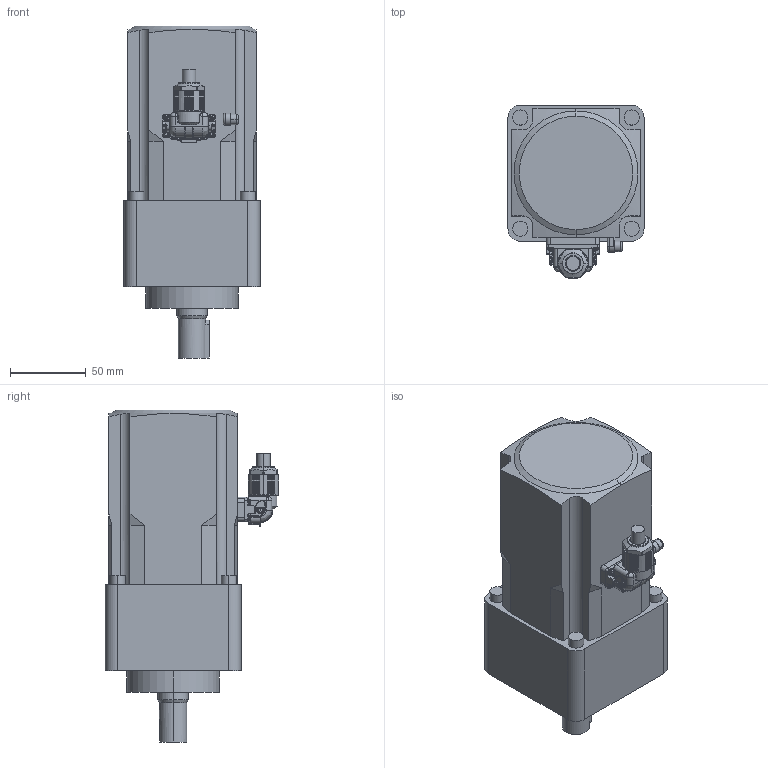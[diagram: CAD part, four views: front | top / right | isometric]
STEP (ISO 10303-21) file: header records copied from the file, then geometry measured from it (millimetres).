
FILE_DESCRIPTION (( 'STEP AP203' ), '1' );
FILE_NAME ('B1633A_B.step', '2025-07-03T05:56:31', ( '' ), ( '' ), 'SwSTEP 2.0', 'SolidWorks 2023', '' );
FILE_SCHEMA (( 'CONFIG_CONTROL_DESIGN' ));
Length unit declared in the file: millimetre
Products named in the file (1): B1633A_B
Bounding box: 90 x 115 x 219.5 mm (x, y, z)
Volume: 1260967.2 mm3; surface area: 86894.4 mm2
Topology: 2 solids, 10 shells, 1115 faces, 2883 edges, 1776 vertices
Faces by surface type: plane 469, cylinder 420, bspline 148, cone 54, torus 22, sphere 2
Entity records: 37547 total; most frequent: CARTESIAN_POINT 11870, ORIENTED_EDGE 5690, DIRECTION 4946, EDGE_CURVE 2845, VERTEX_POINT 1776, AXIS2_PLACEMENT_3D 1719, VECTOR 1508, LINE 1508
